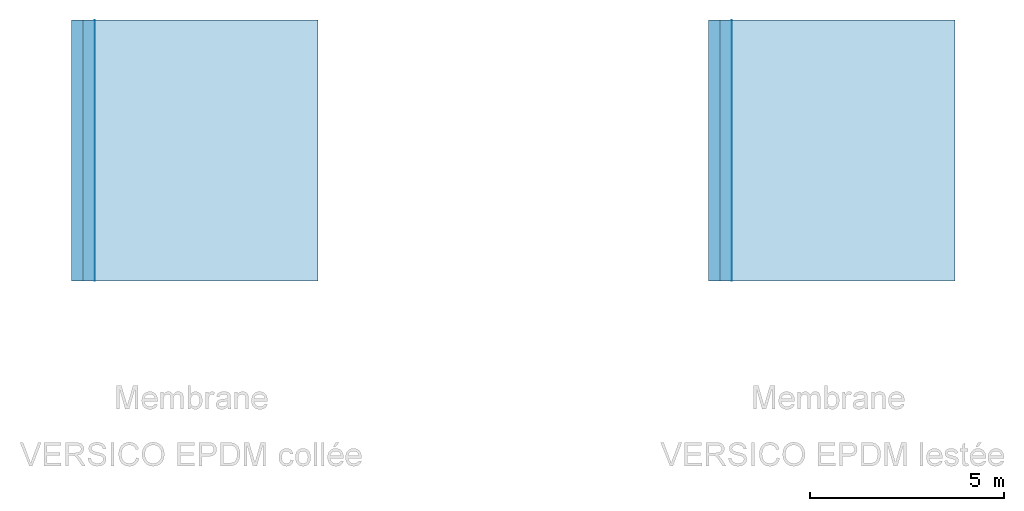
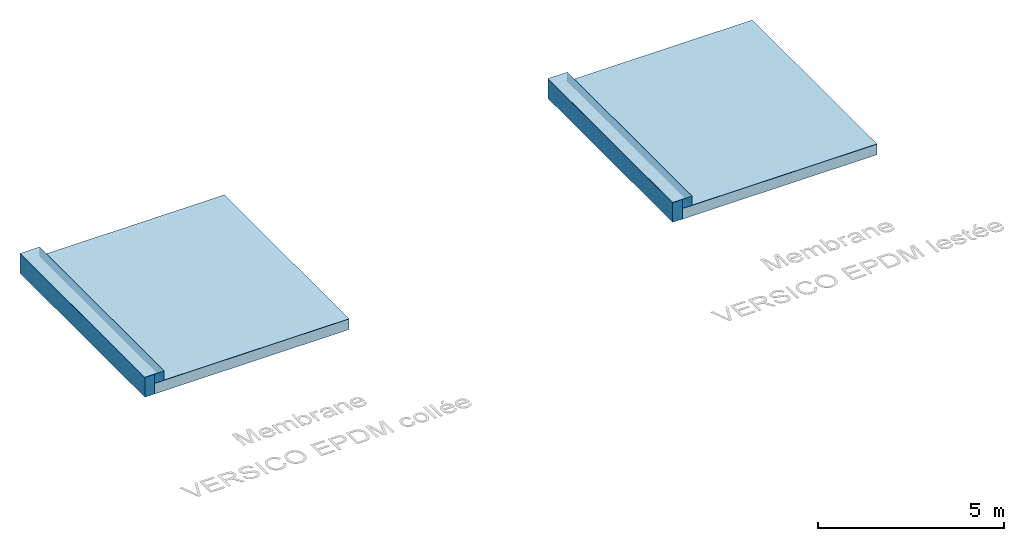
# One storey, incomplete: 6 slabs, 6 walls, 6 elements without a shape of their own.
"""IFC2X3 building model written with IfcOpenShell, lengths in millimetres."""

import ifcopenshell
import ifcopenshell.guid

model = None  # the IFC model being written
_history = None  # IfcOwnerHistory: only IFC2X3 demands one
_inside = {}  # id of a spatial element -> (the spatial element, [elements in it])
_under = {}  # id of a project, library or spatial element -> (it, [spatial elements below it])
_declared = {}  # id of a project -> (the project, [libraries it declares])
_typed = {}  # id of a type object -> (the type object, [elements of that type])
_made_of = {}  # id of a material, layer set ... -> (it, [elements and type objects made of it])


def new_model(schema):
    """Start an empty IFC model of exactly this schema.

    Asked for "IFC4X3", IfcOpenShell would pick the latest addendum, in which some entities
    have other attributes; the version numbers below select the first issue.
    IFC2X3 requires an IfcOwnerHistory on every rooted entity: one is made here for all.
    """
    global model, _history
    if schema == "IFC4X3":
        model = ifcopenshell.file(schema_version=(4, 3, 0, 0))
    else:
        model = ifcopenshell.file(schema=schema)
    _inside.clear()
    _under.clear()
    _declared.clear()
    _typed.clear()
    _made_of.clear()
    _history = None
    if model.schema == "IFC2X3":
        org = make("IfcOrganization", Name="unknown")
        user = make(
            "IfcPersonAndOrganization",
            ThePerson=make("IfcPerson", FamilyName="unknown"),
            TheOrganization=org,
        )
        app = make(
            "IfcApplication",
            ApplicationDeveloper=org,
            Version="unknown",
            ApplicationFullName="unknown",
            ApplicationIdentifier="unknown",
        )
        _history = make(
            "IfcOwnerHistory",
            OwningUser=user,
            OwningApplication=app,
            ChangeAction="ADDED",
            CreationDate=0,
        )
    return model


def make(cls, **values):
    """One entity of the class cls with the attributes given. An attribute that is None is left unset."""
    return model.create_entity(
        cls, **{name: value for name, value in values.items() if value is not None}
    )


def entity(cls, *values):
    """Any entity or typed value of the class cls, its attributes in the order of the schema. None: left unset."""
    e = model.create_entity(cls)
    for i, value in enumerate(values):
        if value is not None:
            e[i] = value
    return e


def rooted(cls, **values):
    """An entity with a GlobalId (a new one), such as an element, a storey or a relation."""
    return make(cls, GlobalId=ifcopenshell.guid.new(), OwnerHistory=_history, **values)


def si_unit(unit_type, name, prefix=None):
    """IfcSIUnit, for example si_unit("LENGTHUNIT", "METRE", prefix="MILLI")."""
    return make("IfcSIUnit", UnitType=unit_type, Prefix=prefix, Name=name)


def converted_unit(unit_type, name, factor, base, dimensions=None, offset=None):
    """IfcConversionBasedUnit, such as the inch: factor (a typed value) times the base unit."""
    return make(
        "IfcConversionBasedUnit"
        if offset is None
        else "IfcConversionBasedUnitWithOffset",
        ConversionOffset=offset,
        Dimensions=None
        if dimensions is None
        else entity("IfcDimensionalExponents", *dimensions),
        UnitType=unit_type,
        Name=name,
        ConversionFactor=make(
            "IfcMeasureWithUnit", ValueComponent=factor, UnitComponent=base
        ),
    )


def assignment(units):
    """IfcUnitAssignment: the units of a project."""
    return None if units is None else make("IfcUnitAssignment", Units=units)


def point(xyz):
    """IfcCartesianPoint."""
    return None if xyz is None else make("IfcCartesianPoint", Coordinates=xyz)


def direction(xyz):
    """IfcDirection."""
    return None if xyz is None else make("IfcDirection", DirectionRatios=xyz)


def frame(location, z_axis=None, x_axis=None):
    """IfcAxis2Placement3D, a coordinate frame: its origin and axes. An axis left out is left unset."""
    return make(
        "IfcAxis2Placement3D",
        Location=point(location),
        Axis=direction(z_axis),
        RefDirection=direction(x_axis),
    )


def frame_2d(location, x_axis=None):
    """IfcAxis2Placement2D, a coordinate frame in the plane: its origin and x axis."""
    return make(
        "IfcAxis2Placement2D", Location=point(location), RefDirection=direction(x_axis)
    )


def origin():
    """The frame at (0, 0, 0) with its axes left unset."""
    return frame((0.0, 0.0, 0.0))


def origin_2d_with_axis():
    """The frame at (0, 0) in the plane with the x axis (1, 0) written out."""
    return frame_2d((0.0, 0.0), x_axis=(1.0, 0.0))


def place(relative_to, where):
    """IfcLocalPlacement: puts the frame where relative to a parent placement (None: the world)."""
    return make(
        "IfcLocalPlacement", PlacementRelTo=relative_to, RelativePlacement=where
    )


def context(
    kind, dimensions, precision=None, world=None, true_north=None, identifier=None
):
    """IfcGeometricRepresentationContext, for example the 3D "Model" context."""
    return make(
        "IfcGeometricRepresentationContext",
        ContextIdentifier=identifier,
        ContextType=kind,
        CoordinateSpaceDimension=dimensions,
        Precision=precision,
        WorldCoordinateSystem=world,
        TrueNorth=true_north,
    )


def subcontext(parent, identifier, kind, view, scale=None):
    """IfcGeometricRepresentationSubContext, for example "Body" below "Model"."""
    return make(
        "IfcGeometricRepresentationSubContext",
        ContextIdentifier=identifier,
        ContextType=kind,
        ParentContext=parent,
        TargetScale=scale,
        TargetView=view,
    )


def project(units=None, contexts=None):
    """IfcProject with its units and contexts."""
    return rooted(
        "IfcProject",
        Name="project",
        RepresentationContexts=contexts,
        UnitsInContext=assignment(units),
    )


def spatial(cls, under=None, at=None, **own):
    """A site, building, storey or space (cls), placed at a placement, below another one or the project."""
    s = rooted(cls, ObjectPlacement=at, **own)
    if under is not None:
        _under.setdefault(under.id(), (under, []))[1].append(s)
    return s


def profile(cls, at=None, kind="AREA", **sizes):
    """A parametric profile (cls). Its sizes go by their IFC names, for example OverallWidth=200.0."""
    return make(cls, ProfileType=kind, Position=at, **sizes)


def rectangle(**sizes):
    """IfcRectangleProfileDef."""
    return profile("IfcRectangleProfileDef", **sizes)


def extrude(swept, where, along, depth):
    """IfcExtrudedAreaSolid: the profile swept, set in the frame where, extruded along a direction by depth."""
    return make(
        "IfcExtrudedAreaSolid",
        SweptArea=swept,
        Position=where,
        ExtrudedDirection=direction(along),
        Depth=depth,
    )


def clip(a, b, op="DIFFERENCE"):
    """IfcBooleanClippingResult: the solid a cut by the half space b."""
    return make(
        "IfcBooleanClippingResult", Operator=op, FirstOperand=a, SecondOperand=b
    )


def halfspace(plane, agree):
    """IfcHalfSpaceSolid: all space on one side of the plane z = 0 of the frame plane."""
    return make(
        "IfcHalfSpaceSolid",
        BaseSurface=make("IfcPlane", Position=plane),
        AgreementFlag=agree,
    )


def shape(context_of_items, identifier, shape_type, items):
    """IfcShapeRepresentation: the items that make up one representation, for example the "Body"."""
    return make(
        "IfcShapeRepresentation",
        ContextOfItems=context_of_items,
        RepresentationIdentifier=identifier,
        RepresentationType=shape_type,
        Items=items,
    )


def material(Name=None, Category=None):
    """IfcMaterial."""
    return make("IfcMaterial", Name=Name, Category=Category)


def layer(
    of_material, thickness, ventilated=None, Name=None, Category=None, Priority=None
):
    """IfcMaterialLayer: one layer of a wall or slab, of a material (None: an air gap)."""
    return make(
        "IfcMaterialLayer",
        Material=of_material,
        LayerThickness=thickness,
        IsVentilated=ventilated,
        Name=Name,
        Category=Category,
        Priority=Priority,
    )


def layer_set(layers, Name=None):
    """IfcMaterialLayerSet."""
    return make("IfcMaterialLayerSet", MaterialLayers=layers, LayerSetName=Name)


def layer_usage(for_layer_set, set_direction, sense, offset, extent=None):
    """IfcMaterialLayerSetUsage: how a layer set lies in its element."""
    return make(
        "IfcMaterialLayerSetUsage",
        ForLayerSet=for_layer_set,
        LayerSetDirection=set_direction,
        DirectionSense=sense,
        OffsetFromReferenceLine=offset,
        ReferenceExtent=extent,
    )


def made_of(thing, what):
    """Note that an element or type object is made of a material, layer set ...; save() writes the relation."""
    if what is not None:
        _made_of.setdefault(what.id(), (what, []))[1].append(thing)
    return thing


def type_object(cls, material=None, **own):
    """A type object (cls), such as IfcWallType, which elements share."""
    return made_of(rooted(cls, **own), material)


def element(
    cls,
    number,
    at=None,
    inside=None,
    cuts=None,
    type_object=None,
    material=None,
    context=None,
    identifier="Body",
    shape_type=None,
    held_by="IfcProductDefinitionShape",
    body=None,
    shapes=None,
    **own,
):
    """One element of the class cls, such as IfcWall. Its Tag is "e" and its number.

    at: its placement. inside: the storey or other place that contains it. cuts: it is an
    opening in that element (IfcRelVoidsElement). A single representation is given by context,
    identifier, shape_type and body (its items); several are given by shapes. held_by: the class
    of the entity that holds the representations. save() writes the other relations.
    """
    e = rooted(cls, Tag="e%d" % number, ObjectPlacement=at, **own)
    if body is not None:
        shapes = [shape(context, identifier, shape_type, body)]
    if shapes is not None:
        e.Representation = make(held_by, Representations=shapes)
    if inside is not None:
        _inside.setdefault(inside.id(), (inside, []))[1].append(e)
    if cuts is not None:
        rooted(
            "IfcRelVoidsElement", RelatingBuildingElement=cuts, RelatedOpeningElement=e
        )
    if type_object is not None:
        _typed.setdefault(type_object.id(), (type_object, []))[1].append(e)
    return made_of(e, material)


def aggregate(whole, parts):
    """IfcRelAggregates: a whole, such as a stair, and the parts it consists of."""
    return rooted("IfcRelAggregates", RelatingObject=whole, RelatedObjects=parts)


def save(model, path):
    """Write the relations noted so far, then the file.

    IfcRelAggregates (storeys below a building ...), IfcRelContainedInSpatialStructure (elements
    in a storey), IfcRelDefinesByType, IfcRelAssociatesMaterial and IfcRelDeclares: one each for
    every whole, place, type object, material and project.
    """
    for whole, parts in _under.values():
        aggregate(whole, parts)
    for where, things in _inside.values():
        rooted(
            "IfcRelContainedInSpatialStructure",
            RelatedElements=things,
            RelatingStructure=where,
        )
    for kind, things in _typed.values():
        rooted("IfcRelDefinesByType", RelatedObjects=things, RelatingType=kind)
    for what, things in _made_of.values():
        rooted("IfcRelAssociatesMaterial", RelatedObjects=things, RelatingMaterial=what)
    for by, libraries in _declared.values():
        rooted("IfcRelDeclares", RelatingContext=by, RelatedDefinitions=libraries)
    model.write(path)


model = new_model("IFC2X3")

# Units and contexts
model_context = context("Model", 3, precision=0.01, world=origin(), true_north=direction((0.0, 1.0)))
plan_context = context("Plan", 3, precision=0.01, world=origin(), true_north=direction((0.0, 1.0)))
body_context = subcontext(model_context, "Body", "Model", "MODEL_VIEW")
ifc_project = project(units=[si_unit("LENGTHUNIT", "METRE", prefix="MILLI"), si_unit("AREAUNIT", "SQUARE_METRE"), si_unit("VOLUMEUNIT", "CUBIC_METRE"), converted_unit("PLANEANGLEUNIT", "DEGREE", entity("IfcPlaneAngleMeasure", 0.017453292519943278), si_unit("PLANEANGLEUNIT", "RADIAN"), dimensions=[0, 0, 0, 0, 0, 0, 0])], contexts=[model_context, plan_context])

# Site, building, storey
site_placement = place(None, origin())
site = spatial("IfcSite", under=ifc_project, at=site_placement, Name="Default", CompositionType="ELEMENT")
building_placement = place(site_placement, origin())
building = spatial("IfcBuilding", under=site, at=building_placement, CompositionType="ELEMENT")
storey_placement = place(building_placement, origin())
storey = spatial("IfcBuildingStorey", under=building, at=storey_placement, Name="Niveau 1", CompositionType="ELEMENT", Elevation=0.0)

# Roof, slab
ifc_material_1 = material(Name="Membrane VERSICO EPDM collée_Partie courante")
ifc_layer_1 = layer(ifc_material_1, 1.2)
ifc_material_2 = material(Name="Adhésif de contact")
ifc_layer_2 = layer(ifc_material_2, 1.1)
ifc_layer_set_1 = layer_set([ifc_layer_1, ifc_layer_2], Name="Toit de base:Membrane VERSICO EPDM Partie courante collée")
roof_1_placement = place(storey_placement, frame((6837.3553681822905, 5160.491318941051, 135.20000000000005)))
roof_1 = element("IfcRoof", 1, at=roof_1_placement, inside=storey, material=ifc_layer_set_1, Name="Toit de base:Membrane VERSICO EPDM Partie courante collée", ShapeType="NOTDEFINED")
slab_type_1 = type_object("IfcSlabType", Name="Toit de base:Membrane VERSICO EPDM Partie courante collée", PredefinedType="ROOF")
slab_1_placement = place(roof_1_placement, origin())
slab_1 = element("IfcSlab", 2, at=slab_1_placement, type_object=slab_type_1, material=ifc_layer_set_1, Name="Toit de base:Membrane VERSICO EPDM Partie courante collée", PredefinedType="ROOF", context=body_context, shape_type="SweptSolid", body=[
    extrude(rectangle(XDim=6714.46153846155, YDim=5746.950000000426, at=frame_2d((0.0, 0.0), x_axis=(0.0, 1.0))), frame((2873.475000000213, 3357.230769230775, 0.0)), (0.0, 0.0, 1.0), 2.3000000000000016),
])
aggregate(roof_1, [slab_1])

ifc_material_3 = material(Name="Film de protection polyester")
ifc_layer_3 = layer(ifc_material_3, 0.8)
ifc_material_4 = material(Name="Membrane VERSICO EPDM lestée_Partie courante")
ifc_layer_4 = layer(ifc_material_4, 1.5)
ifc_layer_set_2 = layer_set([ifc_layer_3, ifc_layer_4], Name="Toit de base:Membrane VERSICO EPDM Partie courante lestée")
roof_2_placement = place(storey_placement, frame((23232.555368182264, 5160.6254592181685, 135.20000000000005)))
roof_2 = element("IfcRoof", 3, at=roof_2_placement, inside=storey, material=ifc_layer_set_2, Name="Toit de base:Membrane VERSICO EPDM Partie courante lestée", ShapeType="NOTDEFINED")
slab_type_2 = type_object("IfcSlabType", Name="Toit de base:Membrane VERSICO EPDM Partie courante lestée", PredefinedType="ROOF")
slab_2_placement = place(roof_2_placement, origin())
slab_2 = element("IfcSlab", 4, at=slab_2_placement, type_object=slab_type_2, material=ifc_layer_set_2, Name="Toit de base:Membrane VERSICO EPDM Partie courante lestée", PredefinedType="ROOF", context=body_context, shape_type="SweptSolid", body=[
    extrude(rectangle(XDim=6714.46153846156, YDim=5746.95000000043, at=frame_2d((0.0, 4.547473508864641e-13), x_axis=(0.0, 1.0))), frame((2873.475000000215, 3357.2307692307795, 0.0)), (0.0, 0.0, 1.0), 2.3000000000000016),
])
aggregate(roof_2, [slab_2])

ifc_material_5 = material(Name="Membrane VERSICO EPDM collée_Acrotère/Relevé")
ifc_layer_5 = layer(ifc_material_5, 1.5)
ifc_layer_6 = layer(ifc_material_2, 1.1)
ifc_layer_set_3 = layer_set([ifc_layer_5, ifc_layer_6], Name="Toit de base:Membrane VERSICO EPDM_Acrotère")
roof_3_placement = place(storey_placement, frame((6237.330529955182, 5160.587790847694, 435.2)))
roof_3 = element("IfcRoof", 5, at=roof_3_placement, inside=storey, material=ifc_layer_set_3, Name="Toit de base:Membrane VERSICO EPDM_Acrotère", ShapeType="NOTDEFINED")
slab_type_3 = type_object("IfcSlabType", Name="Toit de base:Membrane VERSICO EPDM_Acrotère", PredefinedType="ROOF")
slab_3_placement = place(roof_3_placement, origin())
slab_3 = element("IfcSlab", 6, at=slab_3_placement, type_object=slab_type_3, material=ifc_layer_set_3, Name="Toit de base:Membrane VERSICO EPDM_Acrotère", PredefinedType="ROOF", context=body_context, shape_type="SweptSolid", body=[
    extrude(rectangle(XDim=603.3000000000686, YDim=6714.461538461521, at=frame_2d((0.0, 4.547473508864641e-13), x_axis=(1.0, 0.0))), frame((301.6500000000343, 3357.23076923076, 0.0)), (0.0, 0.0, 1.0), 2.600000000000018),
])
aggregate(roof_3, [slab_3])

roof_4_placement = place(storey_placement, frame((22632.497433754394, 5160.679768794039, 435.2)))
roof_4 = element("IfcRoof", 7, at=roof_4_placement, inside=storey, material=ifc_layer_set_3, Name="Toit de base:Membrane VERSICO EPDM_Acrotère", ShapeType="NOTDEFINED")
slab_4_placement = place(roof_4_placement, origin())
slab_4 = element("IfcSlab", 8, at=slab_4_placement, type_object=slab_type_3, material=ifc_layer_set_3, Name="Toit de base:Membrane VERSICO EPDM_Acrotère", PredefinedType="ROOF", context=body_context, shape_type="SweptSolid", body=[
    extrude(rectangle(XDim=603.3000000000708, YDim=6714.461538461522, at=origin_2d_with_axis()), frame((301.6500000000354, 3357.230769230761, 0.0)), (0.0, 0.0, 1.0), 2.600000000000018),
])
aggregate(roof_4, [slab_4])

ifc_material_6 = material(Name="Isolation")
ifc_layer_7 = layer(ifc_material_6, 100.0)
ifc_material_7 = material(Name="<Unnamed>")
ifc_layer_8 = layer(ifc_material_7, 0.8)
ifc_material_8 = material(Name="Béton de pente")
ifc_layer_9 = layer(ifc_material_8, 50.0)
ifc_material_9 = material(Name="Structure porteuse")
ifc_layer_10 = layer(ifc_material_9, 200.0)
ifc_layer_set_4 = layer_set([ifc_layer_7, ifc_layer_8, ifc_layer_9, ifc_layer_10], Name="Toit de base:Toit-Support autorisé")
roof_5_placement = place(storey_placement, frame((6537.408916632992, 5161.058915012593, -215.60000000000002)))
roof_5 = element("IfcRoof", 9, at=roof_5_placement, inside=storey, material=ifc_layer_set_4, Name="Toit de base:Toit-Support autorisé", ShapeType="NOTDEFINED")
slab_type_4 = type_object("IfcSlabType", Name="Toit de base:Toit-Support autorisé", PredefinedType="ROOF")
slab_5_placement = place(roof_5_placement, origin())
slab_5 = element("IfcSlab", 10, at=slab_5_placement, type_object=slab_type_4, material=ifc_layer_set_4, Name="Toit de base:Toit-Support autorisé", PredefinedType="ROOF", context=body_context, shape_type="SweptSolid", body=[
    extrude(rectangle(XDim=6046.950000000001, YDim=6714.461538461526, at=frame_2d((-1.1368683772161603e-12, 0.0), x_axis=(1.0, 0.0))), frame((3023.4750000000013, 3357.230769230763, 0.0)), (0.0, 0.0, 1.0), 350.80000000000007),
])
aggregate(roof_5, [slab_5])

roof_6_placement = place(storey_placement, frame((22932.568981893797, 5160.81642946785, -215.60000000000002)))
roof_6 = element("IfcRoof", 11, at=roof_6_placement, inside=storey, material=ifc_layer_set_4, Name="Toit de base:Toit-Support autorisé", ShapeType="NOTDEFINED")
slab_6_placement = place(roof_6_placement, origin())
slab_6 = element("IfcSlab", 12, at=slab_6_placement, type_object=slab_type_4, material=ifc_layer_set_4, Name="Toit de base:Toit-Support autorisé", PredefinedType="ROOF", context=body_context, shape_type="SweptSolid", body=[
    extrude(rectangle(XDim=6046.950000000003, YDim=6714.461538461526, at=frame_2d((2.2737367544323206e-12, 0.0), x_axis=(1.0, 0.0))), frame((3023.474999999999, 3357.230769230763, 0.0)), (0.0, 0.0, 1.0), 350.80000000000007),
])
aggregate(roof_6, [slab_6])

# Walls
ifc_layer_11 = layer(ifc_material_6, 100.0)
ifc_layer_12 = layer(ifc_material_7, 200.0)
ifc_layer_set_5 = layer_set([ifc_layer_11, ifc_layer_12], Name="Mur de base:Mur 1")
ifc_layer_usage_1 = layer_usage(ifc_layer_set_5, "AXIS2", "NEGATIVE", 150.00000000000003)
wall_type_1 = type_object("IfcWallType", Name="Mur de base:Mur 1", PredefinedType="STANDARD", material=ifc_layer_set_5)
wall_1_placement = place(storey_placement, frame((6387.355368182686, 11874.952857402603, -215.6), z_axis=(0.0, 0.0, 1.0), x_axis=(0.0, -1.0, 0.0)))
element("IfcWallStandardCase", 13, at=wall_1_placement, inside=storey, type_object=wall_type_1, material=ifc_layer_usage_1, Name="Mur de base:Mur 1", context=body_context, shape_type="SweptSolid", body=[
    extrude(rectangle(XDim=6714.461538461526, YDim=300.0000000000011, at=frame_2d((3357.230769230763, 0.0), x_axis=(-1.0, 0.0))), origin(), (0.0, 0.0, 1.0), 650.8000000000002),
])
ifc_layer_usage_2 = layer_usage(ifc_layer_set_5, "AXIS2", "NEGATIVE", 150.00000000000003)
wall_2_placement = place(storey_placement, frame((6687.355368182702, 11874.952857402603, 135.20000000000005), z_axis=(0.0, 0.0, 1.0), x_axis=(0.0, -1.0, 0.0)))
element("IfcWallStandardCase", 14, at=wall_2_placement, inside=storey, type_object=wall_type_1, material=ifc_layer_usage_2, Name="Mur de base:Mur 1", context=body_context, shape_type="Clipping", body=[
    clip(extrude(rectangle(XDim=6714.461538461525, YDim=300.0000000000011, at=frame_2d((3357.2307692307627, 0.0), x_axis=(-1.0, 0.0))), origin(), (0.0, 0.0, 1.0), 300.0), halfspace(frame((6714.461538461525, -150.0, 0.0), z_axis=(0.0, 0.0, -1.0), x_axis=(0.0, 1.0, 0.0)), False)),
])
ifc_layer_usage_3 = layer_usage(ifc_layer_set_5, "AXIS2", "NEGATIVE", 150.00000000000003)
wall_3_placement = place(storey_placement, frame((22782.555368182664, 11875.08699767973, -215.6), z_axis=(0.0, 0.0, 1.0), x_axis=(0.0, -1.0, 0.0)))
element("IfcWallStandardCase", 15, at=wall_3_placement, inside=storey, type_object=wall_type_1, material=ifc_layer_usage_3, Name="Mur de base:Mur 1", context=body_context, shape_type="SweptSolid", body=[
    extrude(rectangle(XDim=6714.461538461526, YDim=300.00000000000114, at=frame_2d((3357.230769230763, -1.6200374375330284e-12), x_axis=(-1.0, 0.0))), origin(), (0.0, 0.0, 1.0), 650.8000000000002),
])
ifc_layer_usage_4 = layer_usage(ifc_layer_set_5, "AXIS2", "NEGATIVE", 150.00000000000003)
wall_4_placement = place(storey_placement, frame((23082.55536818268, 11875.086997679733, 135.20000000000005), z_axis=(0.0, 0.0, 1.0), x_axis=(0.0, -1.0, 0.0)))
element("IfcWallStandardCase", 16, at=wall_4_placement, inside=storey, type_object=wall_type_1, material=ifc_layer_usage_4, Name="Mur de base:Mur 1", context=body_context, shape_type="Clipping", body=[
    clip(extrude(rectangle(XDim=6714.461538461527, YDim=300.0000000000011, at=frame_2d((3357.2307692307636, 5.400124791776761e-13), x_axis=(-1.0, 0.0))), origin(), (0.0, 0.0, 1.0), 300.0), halfspace(frame((6714.461538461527, -150.0, 0.0), z_axis=(0.0, 0.0, -1.0), x_axis=(0.0, 1.0, 0.0)), False)),
])
ifc_layer_13 = layer(ifc_material_5, 1.5)
ifc_layer_14 = layer(ifc_material_2, 1.1)
ifc_layer_set_6 = layer_set([ifc_layer_13, ifc_layer_14], Name="Mur de base:Membrane VERSICO EPDM Relevé collé")
ifc_layer_usage_5 = layer_usage(ifc_layer_set_6, "AXIS2", "NEGATIVE", 1.3)
wall_type_2 = type_object("IfcWallType", Name="Mur de base:Membrane VERSICO EPDM Relevé collé", PredefinedType="STANDARD", material=ifc_layer_set_6)
wall_5_placement = place(storey_placement, frame((6839.005368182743, 11874.9528574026, 138.50000000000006), z_axis=(0.0, 0.0, 1.0), x_axis=(0.0, -1.0, 0.0)))
element("IfcWallStandardCase", 17, at=wall_5_placement, inside=storey, type_object=wall_type_2, material=ifc_layer_usage_5, Name="Mur de base:Membrane VERSICO EPDM Relevé collé", context=body_context, shape_type="SweptSolid", body=[
    extrude(rectangle(XDim=6714.461538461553, YDim=2.599999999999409, at=frame_2d((3357.2307692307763, 1.887379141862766e-14), x_axis=(-1.0, 0.0))), origin(), (0.0, 0.0, 1.0), 296.7000000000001),
])
ifc_layer_usage_6 = layer_usage(ifc_layer_set_6, "AXIS2", "NEGATIVE", 1.3)
wall_6_placement = place(storey_placement, frame((23234.205368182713, 11875.08699767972, 138.20000000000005), z_axis=(0.0, 0.0, 1.0), x_axis=(0.0, -1.0, 0.0)))
element("IfcWallStandardCase", 18, at=wall_6_placement, inside=storey, type_object=wall_type_2, material=ifc_layer_usage_6, Name="Mur de base:Membrane VERSICO EPDM Relevé collé", context=body_context, shape_type="SweptSolid", body=[
    extrude(rectangle(XDim=6714.461538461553, YDim=2.599999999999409, at=frame_2d((3357.2307692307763, 1.887379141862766e-14), x_axis=(-1.0, 0.0))), origin(), (0.0, 0.0, 1.0), 297.0000000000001),
])

save(model, "model.ifc")
